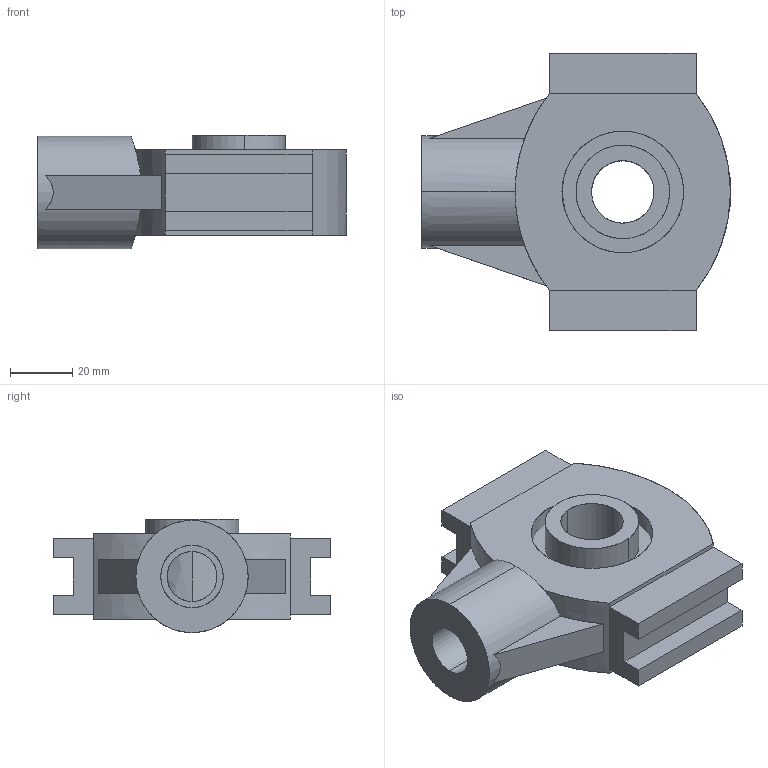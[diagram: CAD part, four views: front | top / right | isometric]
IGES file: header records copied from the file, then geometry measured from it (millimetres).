
Start section: SolidWorks IGES file using analytic representation for surfaces
Global section: file name: C:\Documents and Settings\ARGE\Desktop\yeni katalog tolgay düzenli\B kataloðu\RULMAN YATAKLARI\TPL rulman yataklari (kizak gerdirmeli)\246 TPL 204\export\245 TPL 204.IGS; native system: SolidWorks 2006 by SolidWorks Corporation; preprocessor: SolidWorks 2006 by SolidWorks Corporation; author: ARGE2; date: 060912.113653; units: millimetre
Bounding box: 99 x 89 x 36.3 mm (x, y, z)
Surface area: 33139.7 mm2 (no closed solid volume)
Topology: 0 solids, 0 shells, 65 faces, 1228 edges, 1228 vertices
Faces by surface type: bspline 40, revolution 25
